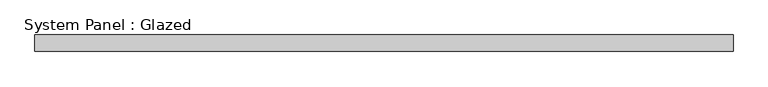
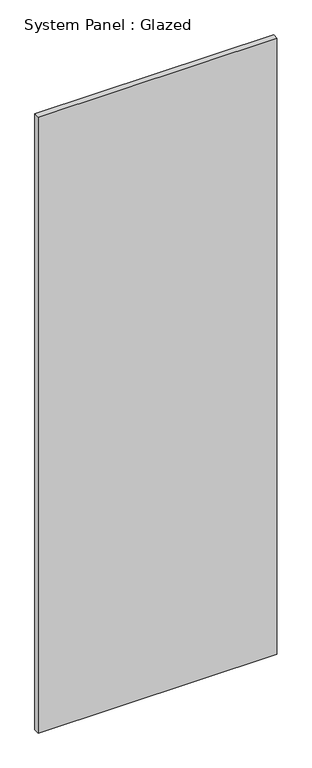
"""IFC4 building model written with IfcOpenShell, lengths in millimetres: plate geometry, System Panel : Glazed."""

from ifc_helpers import new_model, si_unit, origin, origin_with_axes, place, context, project, spatial, polyline, outline, extrude, source, transform, mapped, element, save


def system_panel_glazed_b74ece48(model_context):
    return source(origin(), model_context, "Body", "SweptSolid", [
        extrude(outline(polyline([(541.3375001, -44.45), (-541.3375001, -44.45), (-541.3375001, -19.05), (541.3375001, -19.05), (541.3375001, -44.45)])), origin_with_axes(), (0.0, 0.0, 1.0), 2952.75),
    ])


if __name__ == "__main__":
    model = new_model("IFC4")
    model_context = context("Model", 3, world=origin())
    ifc_project = project(units=[si_unit("LENGTHUNIT", "METRE", prefix="MILLI")], contexts=[model_context])
    site = spatial("IfcSite", under=ifc_project)
    building = spatial("IfcBuilding", under=site)
    placement = place(None, origin())
    system_panel_glazed_shape = system_panel_glazed_b74ece48(model_context)
    element("IfcPlate", 1, ObjectType="System Panel : Glazed", at=placement, inside=building, context=model_context, shape_type="MappedRepresentation", body=[
        mapped(system_panel_glazed_shape, transform((0.0, 0.0, 0.0), x_axis=(1.0, 0.0, 0.0), y_axis=(0.0, 1.0, 0.0), z_axis=(0.0, 0.0, 1.0))),
    ])
    save(model, "model.ifc")
